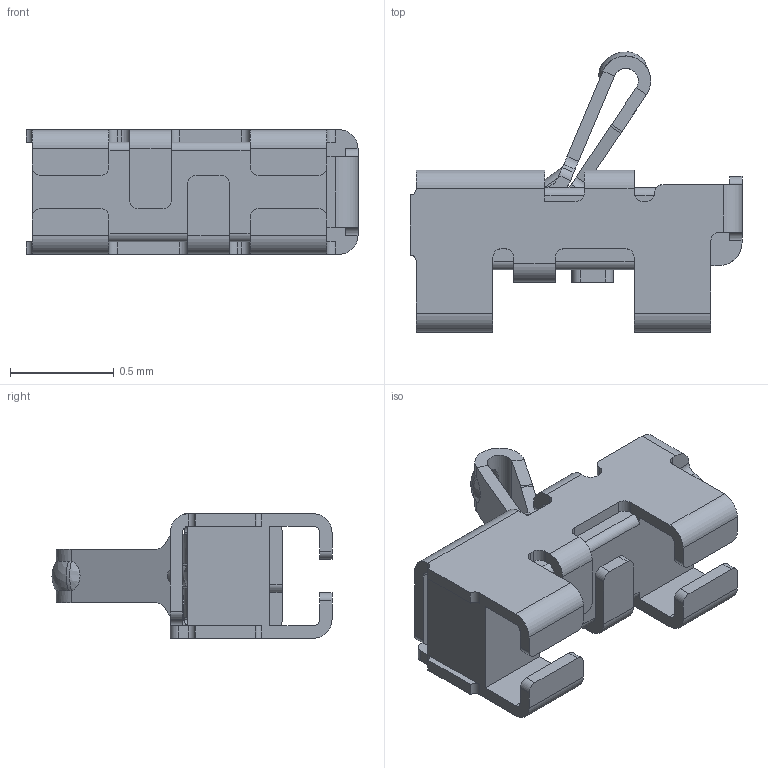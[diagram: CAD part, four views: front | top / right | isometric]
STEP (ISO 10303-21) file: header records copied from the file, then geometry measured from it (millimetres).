
FILE_DESCRIPTION((''),'2;1');
FILE_NAME('3D-2014031-0A-00','2022-04-25T',('TPS'),(''),'CREO PARAMETRIC BY PTC INC, 2015290','CREO PARAMETRIC BY PTC INC, 2015290','');
FILE_SCHEMA(('CONFIG_CONTROL_DESIGN'));
Length unit declared in the file: millimetre
Products named in the file (1): 3D-2014031-0A-00
Bounding box: 1.6 x 1.35 x 0.6 mm (x, y, z)
Volume: 0.4 mm3; surface area: 7.1 mm2
Topology: 1 solids, 1 shells, 244 faces, 713 edges, 467 vertices
Faces by surface type: plane 129, cylinder 105, bspline 8, sphere 2
Entity records: 8555 total; most frequent: CARTESIAN_POINT 1963, ORIENTED_EDGE 1422, DIRECTION 1356, EDGE_CURVE 711, VERTEX_POINT 467, AXIS2_PLACEMENT_3D 453, VECTOR 450, LINE 450
